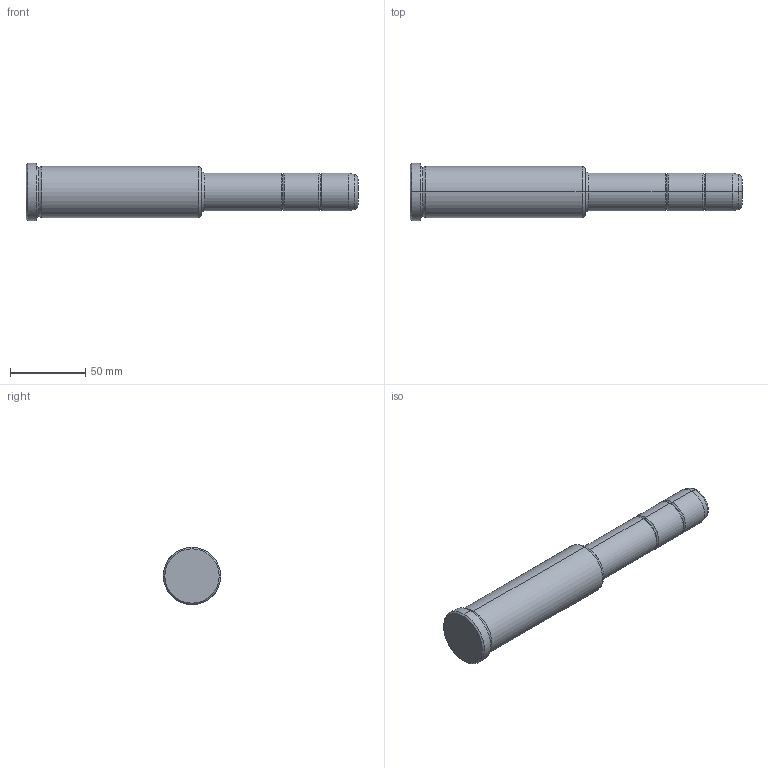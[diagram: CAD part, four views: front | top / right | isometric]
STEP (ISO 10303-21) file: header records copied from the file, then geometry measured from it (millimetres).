
FILE_DESCRIPTION(('CATIA V5 STEP Exchange'),'2;1');
FILE_NAME('C:\Users\Utente\Desktop\IO LAVORO\3D X SITO CF\X SITO\PLASTICA\351\351-25X116X220.stp','2021-09-07T11:53:18+00:00',('none'),('none'),'CATIA Version 5 Release 20 GA (IN-10)','CATIA V5 STEP AP203','none');
FILE_SCHEMA(('CONFIG_CONTROL_DESIGN'));
Length unit declared in the file: millimetre
Products named in the file (1): 351-25X116X220
Bounding box: 220 x 38 x 38 mm (x, y, z)
Volume: 157164 mm3; surface area: 22604.8 mm2
Topology: 1 solids, 1 shells, 36 faces, 102 edges, 70 vertices
Faces by surface type: torus 16, cylinder 10, cone 6, plane 4
Entity records: 1292 total; most frequent: CARTESIAN_POINT 321, ORIENTED_EDGE 204, DIRECTION 166, AXIS2_PLACEMENT_3D 115, EDGE_CURVE 102, CIRCLE 78, VERTEX_POINT 70, EDGE_LOOP 38
